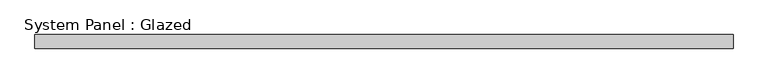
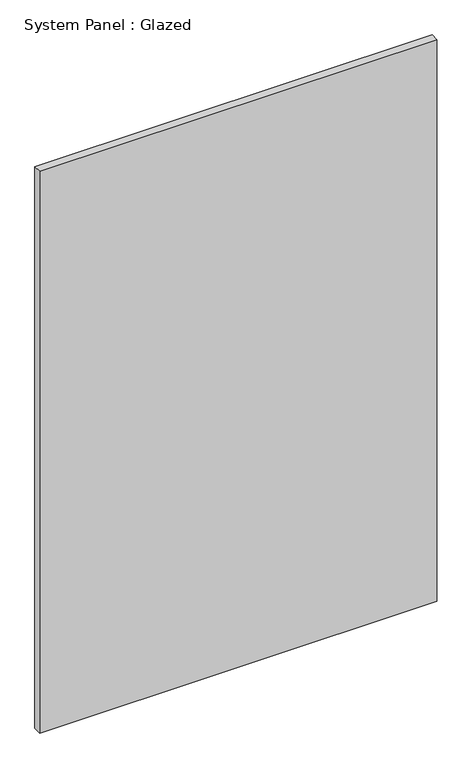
"""IFC4 building model written with IfcOpenShell, lengths in millimetres: plate geometry, System Panel : Glazed."""

from ifc_helpers import new_model, si_unit, origin, origin_with_axes, place, context, project, spatial, polyline, outline, extrude, source, transform, mapped, element, save


def system_panel_glazed_89aeea5a(model_context):
    return source(origin(), model_context, "Body", "SweptSolid", [
        extrude(outline(polyline([(620.2777778, -49.5), (-620.2777778, -49.5), (-620.2777778, -24.5), (620.2777778, -24.5), (620.2777778, -49.5)])), origin_with_axes(), (0.0, 0.0, 1.0), 1854.4),
    ])


if __name__ == "__main__":
    model = new_model("IFC4")
    model_context = context("Model", 3, world=origin())
    ifc_project = project(units=[si_unit("LENGTHUNIT", "METRE", prefix="MILLI")], contexts=[model_context])
    site = spatial("IfcSite", under=ifc_project)
    building = spatial("IfcBuilding", under=site)
    placement = place(None, origin())
    system_panel_glazed_shape = system_panel_glazed_89aeea5a(model_context)
    element("IfcPlate", 1, ObjectType="System Panel : Glazed", at=placement, inside=building, context=model_context, shape_type="MappedRepresentation", body=[
        mapped(system_panel_glazed_shape, transform((0.0, 0.0, 0.0), x_axis=(1.0, 0.0, 0.0), y_axis=(0.0, 1.0, 0.0), z_axis=(0.0, 0.0, 1.0))),
    ])
    save(model, "model.ifc")
